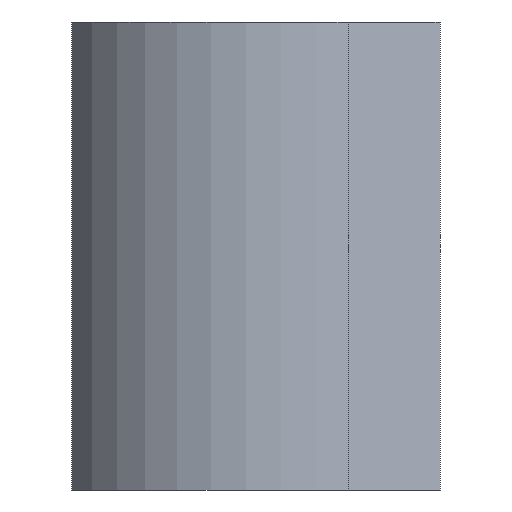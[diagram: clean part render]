
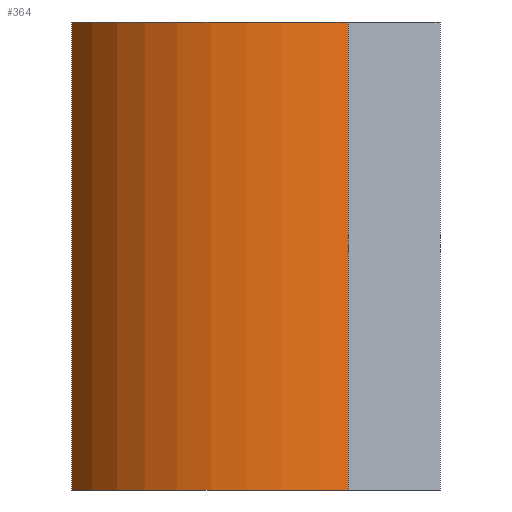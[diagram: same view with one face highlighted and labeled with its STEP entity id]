
A CAD part, front view. The second image highlights one B-rep face of the part: STEP entity #364.
In plain terms, the highlighted cylindrical face has radius 42 mm (diameter 84 mm), a partial arc.
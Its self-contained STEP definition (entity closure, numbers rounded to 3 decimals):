
#364=ADVANCED_FACE('',(#633),#635,.T.);
#633=FACE_BOUND('',#634,.T.);
#634=EDGE_LOOP('',(#848,#849,#850,#851));
#635=CYLINDRICAL_SURFACE('',#636,42.);
#636=AXIS2_PLACEMENT_3D('',#637,#638,#639);
#637=CARTESIAN_POINT('',(-255.,-112.617,0.));
#638=DIRECTION('',(0.,0.,1.));
#639=DIRECTION('',(-1.,0.,0.));
#848=ORIENTED_EDGE('',*,*,#955,.T.);
#849=ORIENTED_EDGE('',*,*,#938,.T.);
#850=ORIENTED_EDGE('',*,*,#936,.T.);
#851=ORIENTED_EDGE('',*,*,#934,.F.);
#934=EDGE_CURVE('',#1091,#1093,#1094,.T.);
#936=EDGE_CURVE('',#1096,#1093,#1097,.T.);
#938=EDGE_CURVE('',#1099,#1096,#1100,.T.);
#955=EDGE_CURVE('',#1091,#1099,#1126,.F.);
#1091=VERTEX_POINT('',#1421);
#1093=VERTEX_POINT('',#1425);
#1094=CIRCLE('',#1426,42.);
#1096=VERTEX_POINT('',#1433);
#1097=LINE('',#1434,#1435);
#1099=VERTEX_POINT('',#1440);
#1100=CIRCLE('',#1441,42.);
#1126=LINE('',#1507,#1508);
#1421=CARTESIAN_POINT('',(-291.525,-133.351,96.));
#1425=CARTESIAN_POINT('',(-234.877,-149.482,96.));
#1426=AXIS2_PLACEMENT_3D('',#1427,#1428,#1429);
#1427=CARTESIAN_POINT('',(-255.,-112.617,96.));
#1428=DIRECTION('',(0.,0.,1.));
#1429=DIRECTION('',(-0.87,-0.494,0.));
#1433=CARTESIAN_POINT('',(-234.877,-149.482,0.));
#1434=CARTESIAN_POINT('',(-234.877,-149.482,0.));
#1435=VECTOR('',#1436,1.);
#1436=DIRECTION('',(0.,0.,1.));
#1440=CARTESIAN_POINT('',(-291.525,-133.351,0.));
#1441=AXIS2_PLACEMENT_3D('',#1442,#1443,#1444);
#1442=CARTESIAN_POINT('',(-255.,-112.617,0.));
#1443=DIRECTION('',(0.,0.,1.));
#1444=DIRECTION('',(-0.87,-0.494,0.));
#1507=CARTESIAN_POINT('',(-291.525,-133.351,0.));
#1508=VECTOR('',#1509,1.);
#1509=DIRECTION('',(0.,0.,1.));
